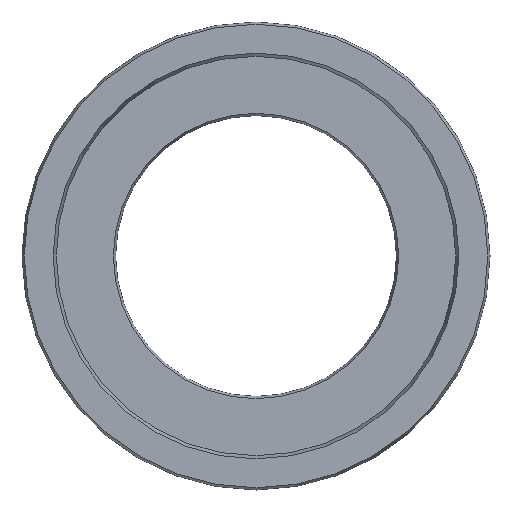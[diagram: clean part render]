
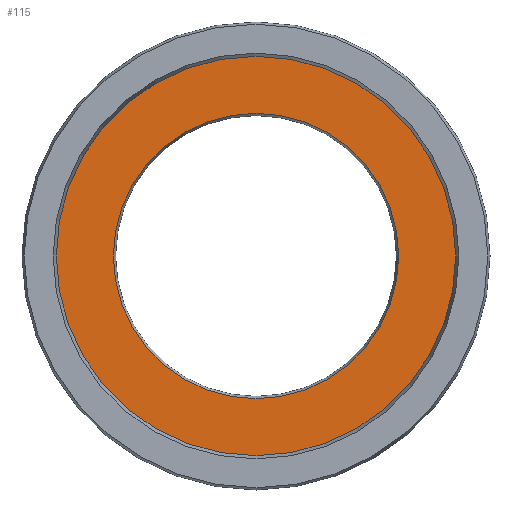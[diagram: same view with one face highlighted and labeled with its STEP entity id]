
A CAD part, left-side view. The second image highlights one B-rep face of the part: STEP entity #115.
In plain terms, the highlighted planar face has unit normal (-1, 0, 0).
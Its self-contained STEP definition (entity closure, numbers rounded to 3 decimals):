
#115=ADVANCED_FACE('',(#149,#150),#141,.F.);
#141=PLANE('',#386);
#149=FACE_BOUND('',#201,.T.);
#150=FACE_BOUND('',#202,.T.);
#201=EDGE_LOOP('',(#253));
#202=EDGE_LOOP('',(#254));
#253=ORIENTED_EDGE('',*,*,#331,.T.);
#254=ORIENTED_EDGE('',*,*,#332,.T.);
#305=VERTEX_POINT('',#544);
#306=VERTEX_POINT('',#546);
#331=EDGE_CURVE('',#305,#305,#357,.T.);
#332=EDGE_CURVE('',#306,#306,#358,.T.);
#357=CIRCLE('',#384,22.864);
#358=CIRCLE('',#385,32.);
#384=AXIS2_PLACEMENT_3D('',#543,#438,#439);
#385=AXIS2_PLACEMENT_3D('',#545,#440,#441);
#386=AXIS2_PLACEMENT_3D('',#547,#442,#443);
#438=DIRECTION('',(1.,0.,0.));
#439=DIRECTION('',(0.,0.,-1.));
#440=DIRECTION('',(-1.,0.,0.));
#441=DIRECTION('',(0.,0.,1.));
#442=DIRECTION('',(1.,0.,0.));
#443=DIRECTION('',(0.,0.,-1.));
#543=CARTESIAN_POINT('',(0.,0.,0.));
#544=CARTESIAN_POINT('',(0.,0.,-22.864));
#545=CARTESIAN_POINT('',(0.,0.,0.));
#546=CARTESIAN_POINT('',(0.,0.,32.));
#547=CARTESIAN_POINT('',(0.,32.,0.));
